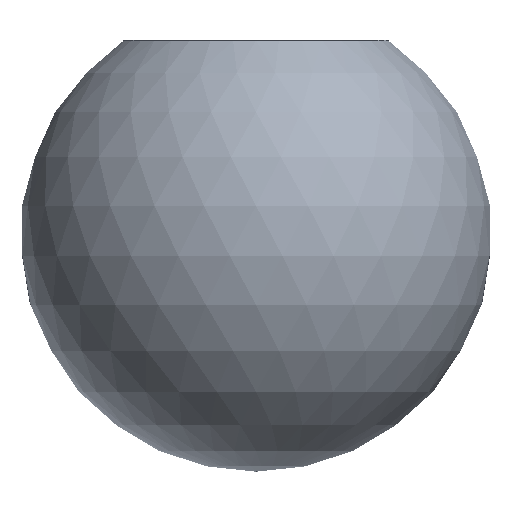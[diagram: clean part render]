
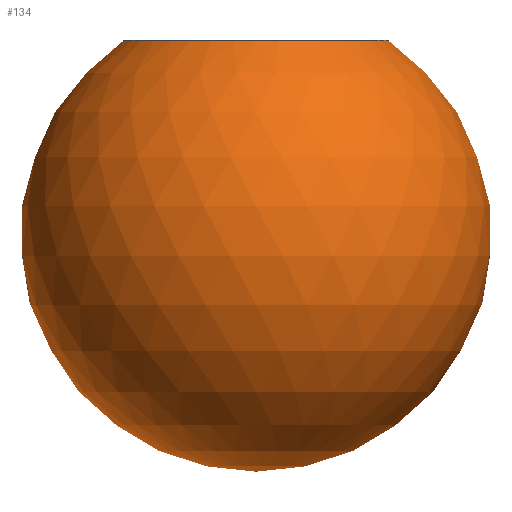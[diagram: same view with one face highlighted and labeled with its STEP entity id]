
A CAD part, left-side view. The second image highlights one B-rep face of the part: STEP entity #134.
In plain terms, the highlighted spherical face has radius 5 mm.
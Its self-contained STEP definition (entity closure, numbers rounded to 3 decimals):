
#34=SPHERICAL_SURFACE('',#150,5.);
#51=FACE_OUTER_BOUND('',#63,.T.);
#63=EDGE_LOOP('',(#113));
#81=CIRCLE('',#149,2.8);
#91=VERTEX_POINT('',#234);
#101=EDGE_CURVE('',#91,#91,#81,.T.);
#113=ORIENTED_EDGE('',*,*,#101,.T.);
#134=ADVANCED_FACE('',(#51),#34,.T.);
#149=AXIS2_PLACEMENT_3D('',#235,#181,#182);
#150=AXIS2_PLACEMENT_3D('',#236,#183,#184);
#181=DIRECTION('center_axis',(0.,0.,-1.));
#182=DIRECTION('ref_axis',(0.,-1.,0.));
#183=DIRECTION('center_axis',(0.,0.,1.));
#184=DIRECTION('ref_axis',(1.,0.,0.));
#234=CARTESIAN_POINT('',(0.,-2.8,4.142));
#235=CARTESIAN_POINT('Origin',(0.,0.,4.142));
#236=CARTESIAN_POINT('Origin',(0.,0.,0.));
